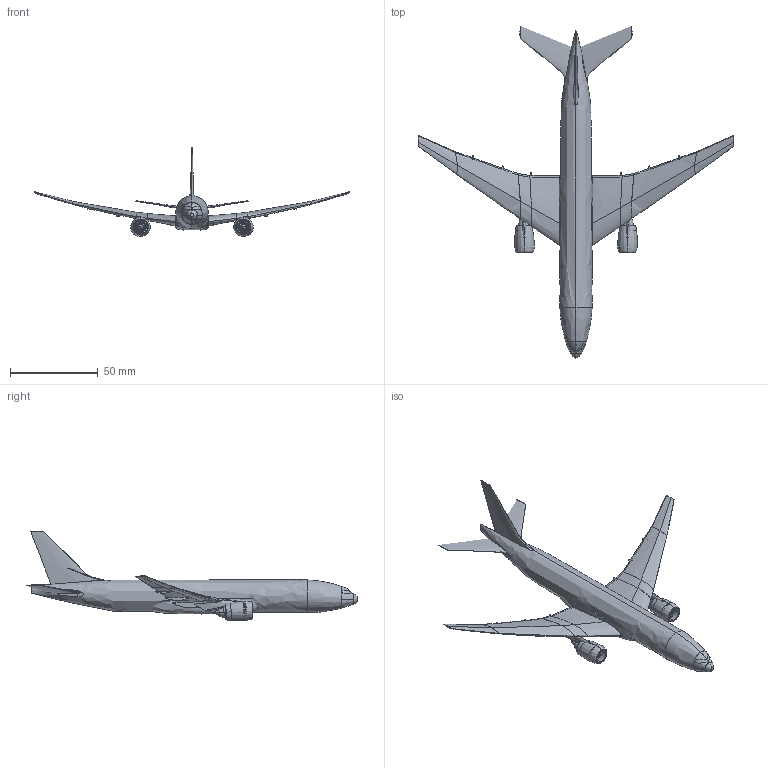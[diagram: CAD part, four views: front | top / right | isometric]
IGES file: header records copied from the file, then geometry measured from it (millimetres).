
Global section: file name: C:\Users\Ivan\Documents\Unigraphics\Renderi sa GRABCAD sajta\boing777 for asghar.igs; native system: NX V6.0; preprocessor: SIEMENS UGS NX 6.0; date: 20110831.223226; units: millimetre
Bounding box: 179.55 x 188.82 x 50.79 mm (x, y, z)
Surface area: 27081 mm2 (no closed solid volume)
Topology: 0 solids, 0 shells, 639 faces, 4191 edges, 4183 vertices
Faces by surface type: bspline 639
